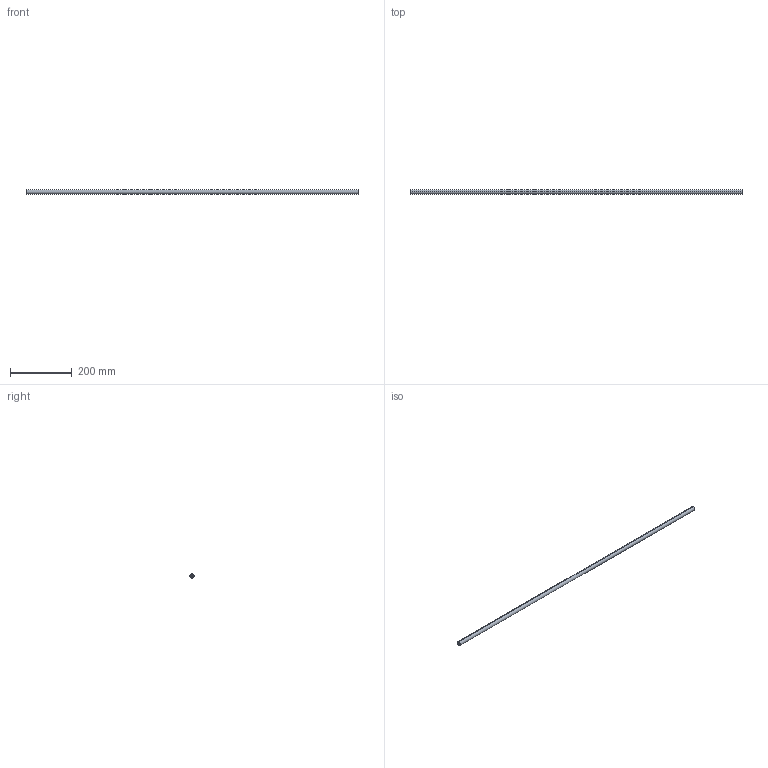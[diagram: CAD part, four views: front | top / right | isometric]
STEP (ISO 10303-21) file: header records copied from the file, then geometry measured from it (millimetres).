
FILE_DESCRIPTION (( 'STEP AP214' ), '1' );
FILE_NAME ('SyncronisationsstangeNova_Pro_KAB_1200_KS16.step', '2009-11-24T08:53:19', ( 'Grass' ), ( 'Grass GmbH' ), 'SwSTEP 2.0', 'SolidWorks 2009', '' );
FILE_SCHEMA (( 'AUTOMOTIVE_DESIGN' ));
Length unit declared in the file: millimetre
Products named in the file (1): SyncronisationsstangeNova_Pro_KAB_1200_KS16
Bounding box: 1079 x 14 x 14 mm (x, y, z)
Volume: 116672 mm3; surface area: 75167 mm2
Topology: 1 solids, 1 shells, 15 faces, 39 edges, 26 vertices
Faces by surface type: cylinder 11, plane 4
Entity records: 513 total; most frequent: DIRECTION 93, CARTESIAN_POINT 81, ORIENTED_EDGE 78, EDGE_CURVE 39, AXIS2_PLACEMENT_3D 38, VERTEX_POINT 26, CIRCLE 22, VECTOR 17
